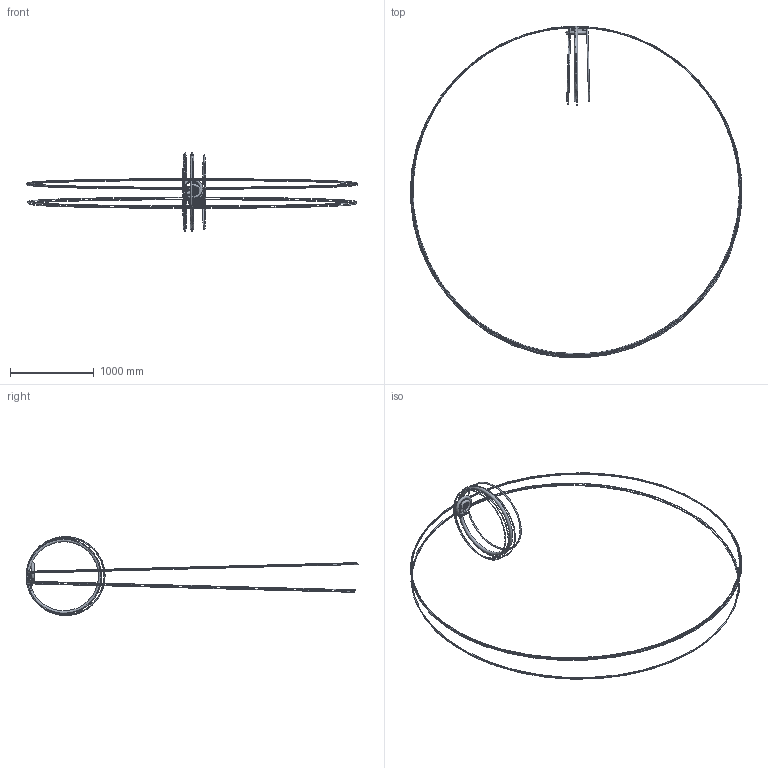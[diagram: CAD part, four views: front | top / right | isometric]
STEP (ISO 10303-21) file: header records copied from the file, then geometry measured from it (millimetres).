
FILE_DESCRIPTION((''),'2;1');
FILE_NAME('MD60C_ASM','2014-06-03T',('user'),(''),'PRO/ENGINEER BY PARAMETRIC TECHNOLOGY CORPORATION, 2008090','PRO/ENGINEER BY PARAMETRIC TECHNOLOGY CORPORATION, 2008090','');
FILE_SCHEMA(('CONFIG_CONTROL_DESIGN'));
Products named in the file (1): MD60C_ASM
Bounding box: 3955.61 x 3961.53 x 943.55 mm (x, y, z)
Surface area: 3438360.8 mm2 (no closed solid volume)
Topology: 0 solids, 0 shells, 3118 faces, 17307 edges, 17071 vertices
Faces by surface type: bspline 2787, torus 307, sphere 24
Entity records: 267132 total; most frequent: CARTESIAN_POINT 118386, DIRECTION 23301, TRIMMED_CURVE 19867, VECTOR 17095, LINE 17095, DEFINITIONAL_REPRESENTATION 16853, PCURVE 16853, COMPOSITE_CURVE_SEGMENT 16853
